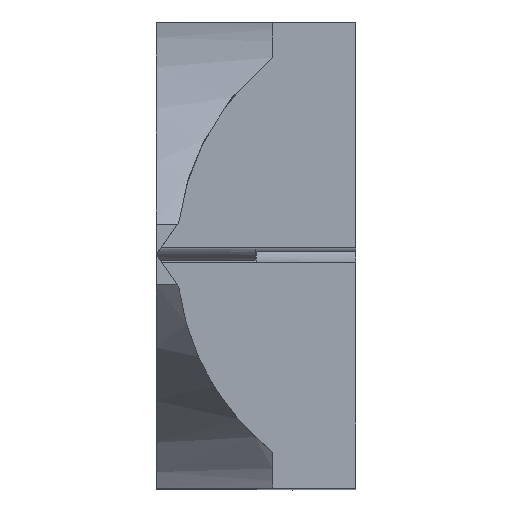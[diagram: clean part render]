
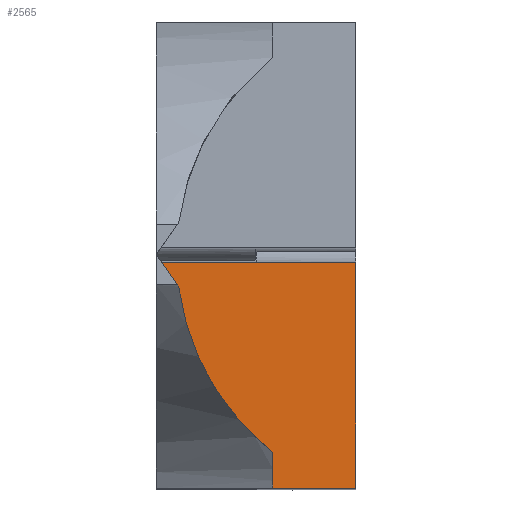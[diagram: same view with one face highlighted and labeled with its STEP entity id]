
A CAD part, top view. The second image highlights one B-rep face of the part: STEP entity #2565.
In plain terms, the highlighted planar face has unit normal (0, 0, 1).
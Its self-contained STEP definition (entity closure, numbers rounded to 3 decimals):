
#6 = CARTESIAN_POINT ( 'NONE',  ( -5.694, -0.439, 44. ) ) ;
#12 = CARTESIAN_POINT ( 'NONE',  ( 1., -14.001, 44. ) ) ;
#13 = CARTESIAN_POINT ( 'NONE',  ( 6., -14.001, 44. ) ) ;
#23 = CARTESIAN_POINT ( 'NONE',  ( 1., -11.85, 44. ) ) ;
#39 = CARTESIAN_POINT ( 'NONE',  ( 6., -0.439, 44. ) ) ;
#286 = VERTEX_POINT ( 'NONE', #39 ) ;
#327 = VERTEX_POINT ( 'NONE', #13 ) ;
#328 = VERTEX_POINT ( 'NONE', #12 ) ;
#334 = VERTEX_POINT ( 'NONE', #6 ) ;
#343 = VERTEX_POINT ( 'NONE', #23 ) ;
#348 = VERTEX_POINT ( 'NONE', #607 ) ;
#607 = CARTESIAN_POINT ( 'NONE',  ( -4.641, -1.941, 44. ) ) ;
#807 = DIRECTION ( 'NONE',  ( 0., -1., 0. ) ) ;
#820 = DIRECTION ( 'NONE',  ( 0., 0., 1. ) ) ;
#821 = CARTESIAN_POINT ( 'NONE',  ( -5.764, -0.439, 44. ) ) ;
#822 = PLANE ( 'NONE',  #2868 ) ;
#1833 = CARTESIAN_POINT ( 'NONE',  ( 6., -0.439, 44. ) ) ;
#1841 = DIRECTION ( 'NONE',  ( -1., 0., 0. ) ) ;
#1842 = CARTESIAN_POINT ( 'NONE',  ( 0.118, -0.439, 44. ) ) ;
#1845 = DIRECTION ( 'NONE',  ( -1., 0., 0. ) ) ;
#1846 = CARTESIAN_POINT ( 'NONE',  ( 0., -14.001, 44. ) ) ;
#1864 = DIRECTION ( 'NONE',  ( 0., -1., 0. ) ) ;
#1964 = CARTESIAN_POINT ( 'NONE',  ( -5.694, -0.439, 44. ) ) ;
#1972 = DIRECTION ( 'NONE',  ( 0.574, -0.819, 0. ) ) ;
#1973 = DIRECTION ( 'NONE',  ( 0., 0., 1. ) ) ;
#1975 = CARTESIAN_POINT ( 'NONE',  ( 10.236, -0.031, 44. ) ) ;
#1981 = DIRECTION ( 'NONE',  ( 0., -1., 0. ) ) ;
#1982 = CARTESIAN_POINT ( 'NONE',  ( 1., -7.22, 44. ) ) ;
#1984 = DIRECTION ( 'NONE',  ( 0., -1., 0. ) ) ;
#2155 = EDGE_LOOP ( 'NONE', ( #2372, #2373, #2374, #2375, #2376, #2377 ) ) ;
#2372 = ORIENTED_EDGE ( 'NONE', *, *, #2685, .T. ) ;
#2373 = ORIENTED_EDGE ( 'NONE', *, *, #2712, .F. ) ;
#2374 = ORIENTED_EDGE ( 'NONE', *, *, #2713, .F. ) ;
#2375 = ORIENTED_EDGE ( 'NONE', *, *, #2710, .T. ) ;
#2376 = ORIENTED_EDGE ( 'NONE', *, *, #2681, .T. ) ;
#2377 = ORIENTED_EDGE ( 'NONE', *, *, #2684, .T. ) ;
#2565 = ADVANCED_FACE ( 'NONE', ( #3387 ), #822, .T. ) ;
#2681 = EDGE_CURVE ( 'NONE', #334, #348, #3217, .T. ) ;
#2684 = EDGE_CURVE ( 'NONE', #348, #343, #3208, .T. ) ;
#2685 = EDGE_CURVE ( 'NONE', #343, #328, #3209, .T. ) ;
#2710 = EDGE_CURVE ( 'NONE', #286, #334, #3163, .T. ) ;
#2712 = EDGE_CURVE ( 'NONE', #327, #328, #3159, .T. ) ;
#2713 = EDGE_CURVE ( 'NONE', #286, #327, #3157, .T. ) ;
#2868 = AXIS2_PLACEMENT_3D ( 'NONE', #821, #820, #807 ) ;
#2944 = AXIS2_PLACEMENT_3D ( 'NONE', #1975, #1973, #1984 ) ;
#3156 = VECTOR ( 'NONE', #1864, 1000. ) ;
#3157 = LINE ( 'NONE', #1833, #3156 ) ;
#3158 = VECTOR ( 'NONE', #1845, 1000. ) ;
#3159 = LINE ( 'NONE', #1846, #3158 ) ;
#3162 = VECTOR ( 'NONE', #1841, 1000. ) ;
#3163 = LINE ( 'NONE', #1842, #3162 ) ;
#3207 = VECTOR ( 'NONE', #1981, 1000. ) ;
#3208 = CIRCLE ( 'NONE', #2944, 15. ) ;
#3209 = LINE ( 'NONE', #1982, #3207 ) ;
#3215 = VECTOR ( 'NONE', #1972, 1000. ) ;
#3217 = LINE ( 'NONE', #1964, #3215 ) ;
#3387 = FACE_OUTER_BOUND ( 'NONE', #2155, .T. ) ;
